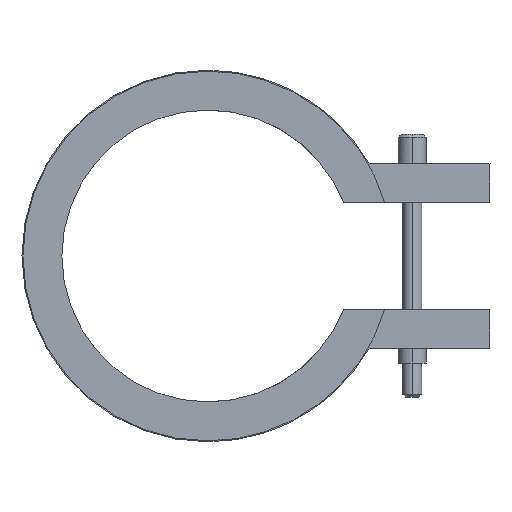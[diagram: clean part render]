
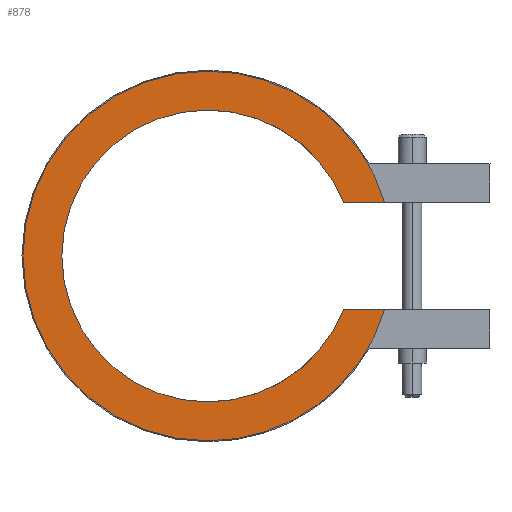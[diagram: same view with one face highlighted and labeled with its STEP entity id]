
A CAD part, left-side view. The second image highlights one B-rep face of the part: STEP entity #878.
In plain terms, the highlighted planar face has unit normal (-1, 0, 0).
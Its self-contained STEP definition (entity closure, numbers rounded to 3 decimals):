
#416=CARTESIAN_POINT('Vertex',(-12.5,-13.955,-5.5)) ;
#419=CARTESIAN_POINT('Line Origine',(-12.5,-16.071,-5.5)) ;
#423=CARTESIAN_POINT('Vertex',(-12.5,-18.187,-5.5)) ;
#469=CARTESIAN_POINT('Vertex',(-12.5,0.,-19.)) ;
#472=CARTESIAN_POINT('Axis2P3D Location',(-12.5,0.,0.)) ;
#493=CARTESIAN_POINT('Vertex',(-12.5,0.,19.)) ;
#496=CARTESIAN_POINT('Axis2P3D Location',(-12.5,0.,0.)) ;
#508=CARTESIAN_POINT('Axis2P3D Location',(-12.5,0.,0.)) ;
#512=CARTESIAN_POINT('Vertex',(-12.5,-18.187,5.5)) ;
#532=CARTESIAN_POINT('Line Origine',(-12.5,-16.071,5.5)) ;
#536=CARTESIAN_POINT('Vertex',(-12.5,-13.955,5.5)) ;
#824=CARTESIAN_POINT('Axis2P3D Location',(-12.5,0.,0.)) ;
#828=CARTESIAN_POINT('Vertex',(-12.5,0.,-15.)) ;
#851=CARTESIAN_POINT('Axis2P3D Location',(-12.5,0.,0.)) ;
#856=CARTESIAN_POINT('Axis2P3D Location',(-12.5,0.,0.)) ;
#860=CARTESIAN_POINT('Vertex',(-12.5,0.,15.)) ;
#863=CARTESIAN_POINT('Axis2P3D Location',(-12.5,0.,0.)) ;
#420=DIRECTION('Vector Direction',(0.,1.,0.)) ;
#473=DIRECTION('Axis2P3D Direction',(1.,0.,-0.)) ;
#497=DIRECTION('Axis2P3D Direction',(1.,0.,-0.)) ;
#509=DIRECTION('Axis2P3D Direction',(1.,0.,-0.)) ;
#533=DIRECTION('Vector Direction',(0.,-1.,0.)) ;
#825=DIRECTION('Axis2P3D Direction',(1.,0.,-0.)) ;
#852=DIRECTION('Axis2P3D Direction',(1.,0.,0.)) ;
#853=DIRECTION('Axis2P3D XDirection',(0.,0.,-1.)) ;
#857=DIRECTION('Axis2P3D Direction',(1.,0.,0.)) ;
#864=DIRECTION('Axis2P3D Direction',(1.,0.,0.)) ;
#474=AXIS2_PLACEMENT_3D('Circle Axis2P3D',#472,#473,$) ;
#498=AXIS2_PLACEMENT_3D('Circle Axis2P3D',#496,#497,$) ;
#510=AXIS2_PLACEMENT_3D('Circle Axis2P3D',#508,#509,$) ;
#826=AXIS2_PLACEMENT_3D('Circle Axis2P3D',#824,#825,$) ;
#854=AXIS2_PLACEMENT_3D('Plane Axis2P3D',#851,#852,#853) ;
#858=AXIS2_PLACEMENT_3D('Circle Axis2P3D',#856,#857,$) ;
#865=AXIS2_PLACEMENT_3D('Circle Axis2P3D',#863,#864,$) ;
#869=ORIENTED_EDGE('',*,*,#425,.T.) ;
#870=ORIENTED_EDGE('',*,*,#830,.T.) ;
#871=ORIENTED_EDGE('',*,*,#862,.T.) ;
#872=ORIENTED_EDGE('',*,*,#867,.T.) ;
#873=ORIENTED_EDGE('',*,*,#538,.T.) ;
#874=ORIENTED_EDGE('',*,*,#514,.F.) ;
#875=ORIENTED_EDGE('',*,*,#500,.F.) ;
#876=ORIENTED_EDGE('',*,*,#476,.F.) ;
#421=VECTOR('Line Direction',#420,1.) ;
#534=VECTOR('Line Direction',#533,1.) ;
#878=ADVANCED_FACE('14030025',(#877),#855,.F.) ;
#475=CIRCLE('generated circle',#474,19.) ;
#499=CIRCLE('generated circle',#498,19.) ;
#511=CIRCLE('generated circle',#510,19.) ;
#827=CIRCLE('generated circle',#826,15.) ;
#859=CIRCLE('generated circle',#858,15.) ;
#866=CIRCLE('generated circle',#865,15.) ;
#425=EDGE_CURVE('',#424,#417,#422,.T.) ;
#476=EDGE_CURVE('',#424,#470,#475,.T.) ;
#500=EDGE_CURVE('',#470,#494,#499,.T.) ;
#514=EDGE_CURVE('',#494,#513,#511,.T.) ;
#538=EDGE_CURVE('',#537,#513,#535,.T.) ;
#830=EDGE_CURVE('',#417,#829,#827,.T.) ;
#862=EDGE_CURVE('',#829,#861,#859,.T.) ;
#867=EDGE_CURVE('',#861,#537,#866,.T.) ;
#868=EDGE_LOOP('',(#869,#870,#871,#872,#873,#874,#875,#876)) ;
#877=FACE_OUTER_BOUND('',#868,.T.) ;
#422=LINE('Line',#419,#421) ;
#535=LINE('Line',#532,#534) ;
#855=PLANE('Plane',#854) ;
#417=VERTEX_POINT('',#416) ;
#424=VERTEX_POINT('',#423) ;
#470=VERTEX_POINT('',#469) ;
#494=VERTEX_POINT('',#493) ;
#513=VERTEX_POINT('',#512) ;
#537=VERTEX_POINT('',#536) ;
#829=VERTEX_POINT('',#828) ;
#861=VERTEX_POINT('',#860) ;
